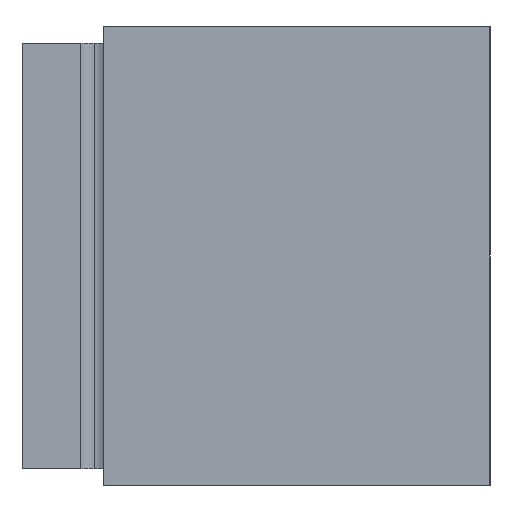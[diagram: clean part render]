
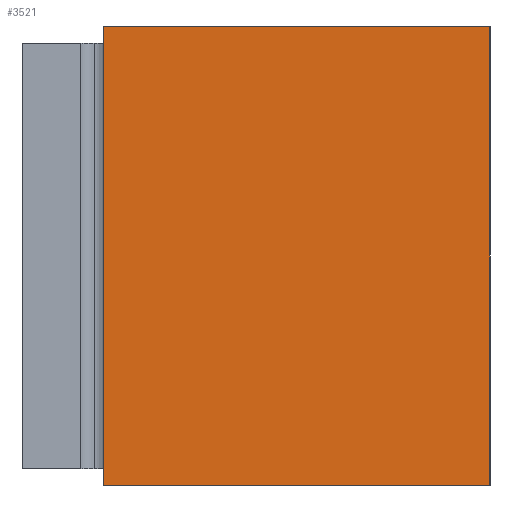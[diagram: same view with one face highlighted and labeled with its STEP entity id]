
A CAD part, left-side view. The second image highlights one B-rep face of the part: STEP entity #3521.
In plain terms, the highlighted planar face has unit normal (-1, 0, 0).
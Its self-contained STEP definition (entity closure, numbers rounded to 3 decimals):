
#301 = DIRECTION ( 'NONE',  ( 0., 0., 1. ) ) ;
#806 = ORIENTED_EDGE ( 'NONE', *, *, #4502, .T. ) ;
#1086 = PLANE ( 'NONE',  #2699 ) ;
#1391 = DIRECTION ( 'NONE',  ( 0., 0., -1. ) ) ;
#1449 = ORIENTED_EDGE ( 'NONE', *, *, #5778, .T. ) ;
#1529 = LINE ( 'NONE', #5424, #4614 ) ;
#1972 = VECTOR ( 'NONE', #4144, 1000. ) ;
#1990 = EDGE_CURVE ( 'NONE', #3504, #2112, #2230, .T. ) ;
#2112 = VERTEX_POINT ( 'NONE', #4257 ) ;
#2145 = FACE_OUTER_BOUND ( 'NONE', #2914, .T. ) ;
#2230 = LINE ( 'NONE', #2321, #4590 ) ;
#2321 = CARTESIAN_POINT ( 'NONE',  ( -250., 143., 70. ) ) ;
#2521 = CARTESIAN_POINT ( 'NONE',  ( -250., 118., 70. ) ) ;
#2544 = CARTESIAN_POINT ( 'NONE',  ( -250., 118., -70. ) ) ;
#2699 = AXIS2_PLACEMENT_3D ( 'NONE', #4104, #5557, #301 ) ;
#2761 = DIRECTION ( 'NONE',  ( 0., -1., 0. ) ) ;
#2914 = EDGE_LOOP ( 'NONE', ( #3893, #1449, #806, #4866 ) ) ;
#3236 = CARTESIAN_POINT ( 'NONE',  ( -250., 118., 70. ) ) ;
#3459 = DIRECTION ( 'NONE',  ( 0., -1., 0. ) ) ;
#3504 = VERTEX_POINT ( 'NONE', #2521 ) ;
#3507 = CARTESIAN_POINT ( 'NONE',  ( -250., 0., -70. ) ) ;
#3521 = ADVANCED_FACE ( 'NONE', ( #2145 ), #1086, .T. ) ;
#3893 = ORIENTED_EDGE ( 'NONE', *, *, #1990, .F. ) ;
#3964 = CARTESIAN_POINT ( 'NONE',  ( -250., 0., 70. ) ) ;
#4104 = CARTESIAN_POINT ( 'NONE',  ( -250., 143., 70. ) ) ;
#4144 = DIRECTION ( 'NONE',  ( 0., 0., -1. ) ) ;
#4257 = CARTESIAN_POINT ( 'NONE',  ( -250., 0., 70. ) ) ;
#4502 = EDGE_CURVE ( 'NONE', #4929, #4930, #1529, .T. ) ;
#4590 = VECTOR ( 'NONE', #2761, 1000. ) ;
#4594 = LINE ( 'NONE', #3236, #1972 ) ;
#4614 = VECTOR ( 'NONE', #3459, 1000. ) ;
#4804 = EDGE_CURVE ( 'NONE', #2112, #4930, #4815, .T. ) ;
#4815 = LINE ( 'NONE', #3964, #5407 ) ;
#4866 = ORIENTED_EDGE ( 'NONE', *, *, #4804, .F. ) ;
#4929 = VERTEX_POINT ( 'NONE', #2544 ) ;
#4930 = VERTEX_POINT ( 'NONE', #3507 ) ;
#5407 = VECTOR ( 'NONE', #1391, 1000. ) ;
#5424 = CARTESIAN_POINT ( 'NONE',  ( -250., 143., -70. ) ) ;
#5557 = DIRECTION ( 'NONE',  ( -1., 0., 0. ) ) ;
#5778 = EDGE_CURVE ( 'NONE', #3504, #4929, #4594, .T. ) ;
